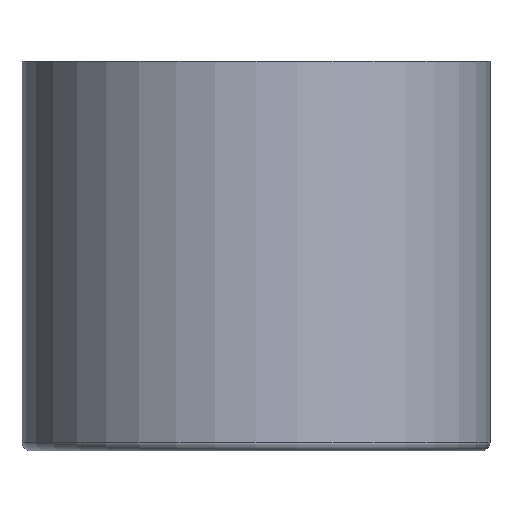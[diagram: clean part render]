
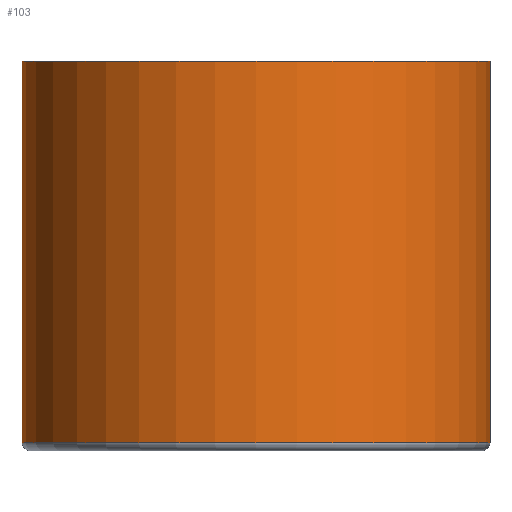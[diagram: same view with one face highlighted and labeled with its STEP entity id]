
A CAD part, front view. The second image highlights one B-rep face of the part: STEP entity #103.
In plain terms, the highlighted cylindrical face has radius 3.556 mm (diameter 7.112 mm), a full revolution.
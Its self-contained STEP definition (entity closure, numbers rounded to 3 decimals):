
#24=FACE_OUTER_BOUND('',#31,.T.);
#31=EDGE_LOOP('',(#86,#87,#88,#89,#90));
#36=LINE('',#206,#38);
#38=VECTOR('',#174,3.556);
#44=CIRCLE('',#133,3.556);
#45=CIRCLE('',#134,3.556);
#48=CIRCLE('',#139,3.556);
#55=VERTEX_POINT('',#194);
#56=VERTEX_POINT('',#196);
#58=VERTEX_POINT('',#204);
#65=EDGE_CURVE('',#55,#56,#44,.T.);
#66=EDGE_CURVE('',#56,#55,#45,.T.);
#69=EDGE_CURVE('',#58,#58,#48,.T.);
#70=EDGE_CURVE('',#58,#56,#36,.T.);
#86=ORIENTED_EDGE('',*,*,#69,.F.);
#87=ORIENTED_EDGE('',*,*,#70,.T.);
#88=ORIENTED_EDGE('',*,*,#65,.F.);
#89=ORIENTED_EDGE('',*,*,#66,.F.);
#90=ORIENTED_EDGE('',*,*,#70,.F.);
#99=CYLINDRICAL_SURFACE('',#138,3.556);
#103=ADVANCED_FACE('',(#24),#99,.T.);
#133=AXIS2_PLACEMENT_3D('',#197,#160,#161);
#134=AXIS2_PLACEMENT_3D('',#198,#162,#163);
#138=AXIS2_PLACEMENT_3D('',#203,#170,#171);
#139=AXIS2_PLACEMENT_3D('',#205,#172,#173);
#160=DIRECTION('center_axis',(0.,0.,-1.));
#161=DIRECTION('ref_axis',(1.,0.,0.));
#162=DIRECTION('center_axis',(0.,0.,-1.));
#163=DIRECTION('ref_axis',(1.,0.,0.));
#170=DIRECTION('center_axis',(0.,0.,1.));
#171=DIRECTION('ref_axis',(1.,0.,0.));
#172=DIRECTION('center_axis',(0.,0.,1.));
#173=DIRECTION('ref_axis',(1.,0.,0.));
#174=DIRECTION('',(0.,0.,-1.));
#194=CARTESIAN_POINT('',(3.556,0.,-8.209));
#196=CARTESIAN_POINT('',(-3.556,0.,-8.209));
#197=CARTESIAN_POINT('Origin',(0.,0.,-8.209));
#198=CARTESIAN_POINT('Origin',(0.,0.,-8.209));
#203=CARTESIAN_POINT('Origin',(0.,0.,-2.413));
#204=CARTESIAN_POINT('',(-3.556,0.,-2.413));
#205=CARTESIAN_POINT('Origin',(0.,0.,-2.413));
#206=CARTESIAN_POINT('',(-3.556,0.,-2.413));
